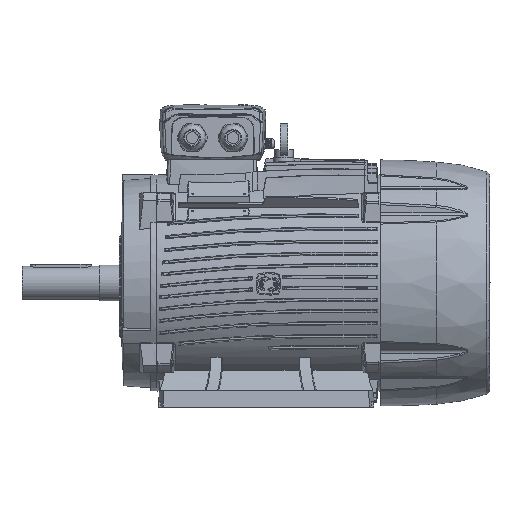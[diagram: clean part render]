
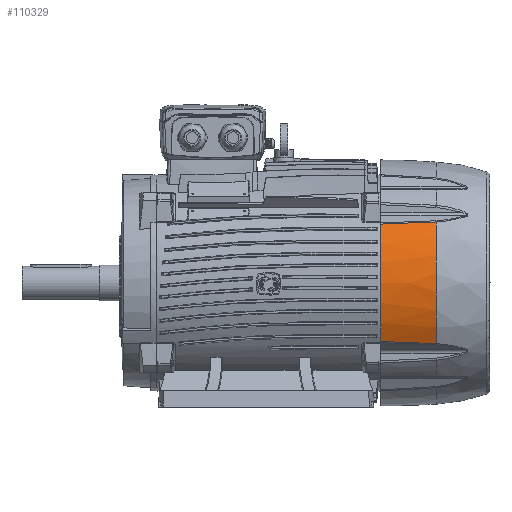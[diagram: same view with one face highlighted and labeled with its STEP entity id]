
A CAD part, top view. The second image highlights one B-rep face of the part: STEP entity #110329.
In plain terms, the highlighted free-form (B-spline) face has degree [2, 2] with [3, 3] control points.
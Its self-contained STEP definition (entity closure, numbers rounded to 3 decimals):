
#105643=CARTESIAN_POINT('',(189.69,110.127,-115.525));
#105644=VERTEX_POINT('',#105643);
#105681=CARTESIAN_POINT('',(189.69,-110.127,-115.525));
#105682=VERTEX_POINT('',#105681);
#105683=CARTESIAN_POINT('',(0.,0.,-115.525));
#105684=DIRECTION('',(0.,0.,-1.));
#105685=DIRECTION('',(0.865,-0.502,0.));
#105686=AXIS2_PLACEMENT_3D('',#105683,#105684,#105685);
#105687=CIRCLE('',#105686,219.34);
#105688=EDGE_CURVE('',#105682,#105644,#105687,.F.);
#107047=CARTESIAN_POINT('',(195.663,-106.237,-15.));
#107048=VERTEX_POINT('',#107047);
#107058=CARTESIAN_POINT('',(195.663,106.236,-15.));
#107059=VERTEX_POINT('',#107058);
#107060=CARTESIAN_POINT('',(0.,0.,-15.));
#107061=DIRECTION('',(0.0,0.0,1.0));
#107062=DIRECTION('',(-1.0,0.0,0.0));
#107063=AXIS2_PLACEMENT_3D('',#107060,#107061,#107062);
#107064=CIRCLE('',#107063,222.643);
#107065=EDGE_CURVE('',#107048,#107059,#107064,.T.);
#110269=CARTESIAN_POINT('',(195.663,106.236,-15.));
#110270=CARTESIAN_POINT('',(195.475,106.359,-29.211));
#110271=CARTESIAN_POINT('',(194.708,106.858,-53.053));
#110272=CARTESIAN_POINT('',(192.53,108.277,-86.571));
#110273=CARTESIAN_POINT('',(190.735,109.446,-105.869));
#110274=CARTESIAN_POINT('',(189.69,110.127,-115.525));
#110275=B_SPLINE_CURVE_WITH_KNOTS('',3,(#110269,#110270,#110271,#110272,#110273,#110274),.UNSPECIFIED.,.F.,.U.,(4,1,1,4),(0.0,0.425,0.713,1.0),.UNSPECIFIED.);
#110276=EDGE_CURVE('',#107059,#105644,#110275,.T.);
#110288=CARTESIAN_POINT('',(189.69,110.127,-115.526));
#110289=CARTESIAN_POINT('',(192.218,111.595,-65.305));
#110290=CARTESIAN_POINT('',(192.546,111.786,-15.));
#110291=CARTESIAN_POINT('',(253.626,0.,-115.526));
#110292=CARTESIAN_POINT('',(257.006,0.,-65.305));
#110293=CARTESIAN_POINT('',(257.445,0.,-15.));
#110294=CARTESIAN_POINT('',(189.69,-110.127,-115.526));
#110295=CARTESIAN_POINT('',(192.218,-111.595,-65.305));
#110296=CARTESIAN_POINT('',(192.546,-111.786,-15.));
#110304=(BOUNDED_SURFACE()B_SPLINE_SURFACE(2,2,((#110288,#110291,#110294),(#110289,#110292,#110295),(#110290,#110293,#110296)),.UNSPECIFIED.,.F.,.F.,.U.)B_SPLINE_SURFACE_WITH_KNOTS((3,3),(3,3),(-0.058,-0.008),(0.0,1.052),.UNSPECIFIED.)GEOMETRIC_REPRESENTATION_ITEM()RATIONAL_B_SPLINE_SURFACE(((1.0,0.865,1.0),(1.,0.865,1.),(1.0,0.865,1.0)))REPRESENTATION_ITEM('')SURFACE());
#110305=ORIENTED_EDGE('',*,*,#105688,.T.);
#110306=ORIENTED_EDGE('',*,*,#110276,.F.);
#110307=ORIENTED_EDGE('',*,*,#107065,.F.);
#110308=CARTESIAN_POINT('',(195.663,-106.237,-15.));
#110309=CARTESIAN_POINT('',(195.55,-106.309,-23.465));
#110310=CARTESIAN_POINT('',(195.344,-106.444,-31.883));
#110311=CARTESIAN_POINT('',(194.893,-106.737,-44.441));
#110312=CARTESIAN_POINT('',(194.72,-106.851,-48.615));
#110313=CARTESIAN_POINT('',(194.425,-107.043,-54.859));
#110314=CARTESIAN_POINT('',(194.268,-107.145,-57.977));
#110315=CARTESIAN_POINT('',(194.071,-107.274,-61.606));
#110316=CARTESIAN_POINT('',(193.968,-107.34,-63.418));
#110317=CARTESIAN_POINT('',(193.911,-107.378,-64.421));
#110318=CARTESIAN_POINT('',(193.882,-107.397,-64.906));
#110319=CARTESIAN_POINT('',(193.867,-107.406,-65.165));
#110320=CARTESIAN_POINT('',(193.865,-107.408,-65.196));
#110321=CARTESIAN_POINT('',(192.85,-108.069,-82.485));
#110322=CARTESIAN_POINT('',(191.451,-108.98,-99.252));
#110323=CARTESIAN_POINT('',(189.69,-110.127,-115.525));
#110324=B_SPLINE_CURVE_WITH_KNOTS('',3,(#110308,#110309,#110310,#110311,#110312,#110313,#110314,#110315,#110316,#110317,#110318,#110319,#110320,#110321,#110322,#110323),.UNSPECIFIED.,.F.,.U.,(4,2,2,1,1,1,1,2,2,4),(0.0,0.25,0.375,0.438,0.469,0.484,0.492,0.499,0.5,1.0),.UNSPECIFIED.);
#110325=EDGE_CURVE('',#107048,#105682,#110324,.T.);
#110326=ORIENTED_EDGE('',*,*,#110325,.T.);
#110327=EDGE_LOOP('',(#110305,#110306,#110307,#110326));
#110328=FACE_OUTER_BOUND('',#110327,.T.);
#110329=ADVANCED_FACE('',(#110328),#110304,.T.);
